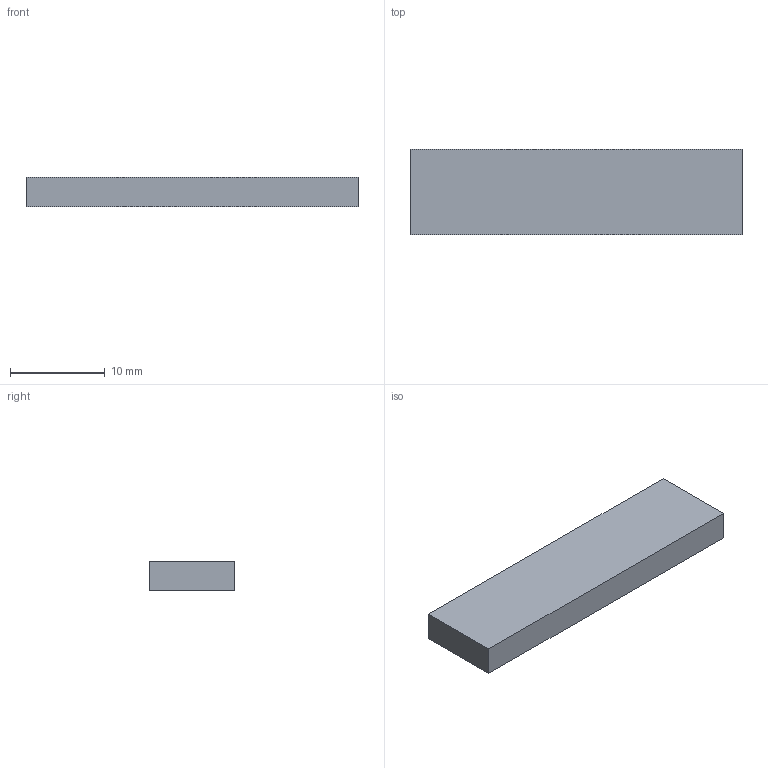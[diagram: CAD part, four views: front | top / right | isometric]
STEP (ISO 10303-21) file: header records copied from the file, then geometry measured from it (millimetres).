
FILE_DESCRIPTION((''),'2;1');
FILE_NAME('9001299_77','2020-05-27T',('gfichot'),(''),'CREO PARAMETRIC BY PTC INC, 2016130','CREO PARAMETRIC BY PTC INC, 2016130','');
FILE_SCHEMA(('CONFIG_CONTROL_DESIGN'));
Length unit declared in the file: millimetre
Products named in the file (1): 9001299_77
Bounding box: 35 x 9 x 3.15 mm (x, y, z)
Surface area: 907.2 mm2 (no closed solid volume)
Topology: 0 solids, 0 shells, 6 faces, 1203 edges, 1227 vertices
Faces by surface type: bspline 6
Entity records: 7529 total; most frequent: CARTESIAN_POINT 2590, COMPOSITE_CURVE_SEGMENT 1179, DIRECTION 783, VECTOR 781, LINE 781, TRIMMED_CURVE 781, B_SPLINE_CURVE_WITH_KNOTS 446, COMPOSITE_CURVE 66
